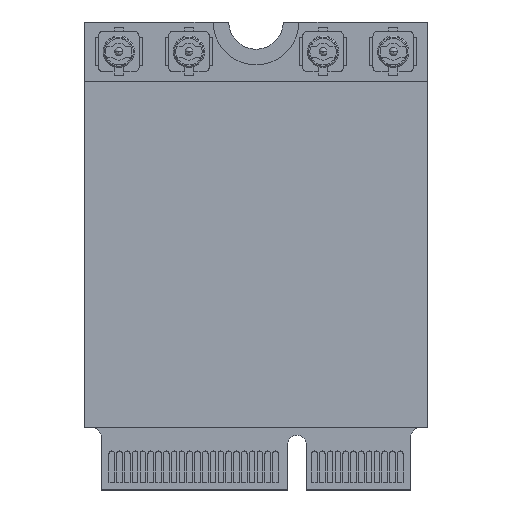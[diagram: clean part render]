
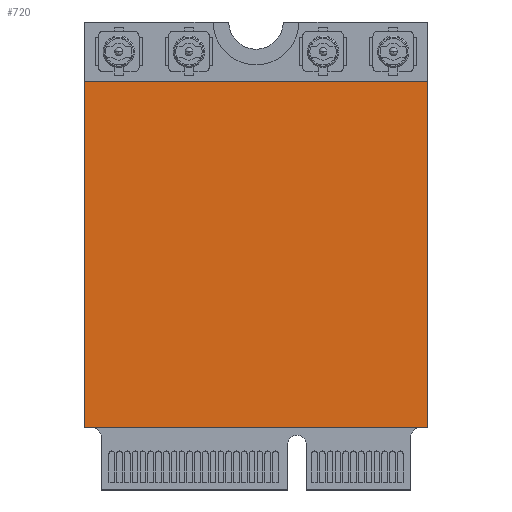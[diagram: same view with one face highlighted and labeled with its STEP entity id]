
A CAD part, top view. The second image highlights one B-rep face of the part: STEP entity #720.
In plain terms, the highlighted planar face has unit normal (0, 0, 1).
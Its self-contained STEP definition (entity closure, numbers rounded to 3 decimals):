
#712=AXIS2_PLACEMENT_3D('Plane Axis2P3D',#709,#710,#711) ;
#584=CARTESIAN_POINT('Vertex',(-11.,-3.8,1.5)) ;
#598=CARTESIAN_POINT('Vertex',(-11.,-26.,1.5)) ;
#601=CARTESIAN_POINT('Line Origine',(-11.,-14.9,1.5)) ;
#629=CARTESIAN_POINT('Vertex',(11.,-26.,1.5)) ;
#632=CARTESIAN_POINT('Line Origine',(0.,-26.,1.5)) ;
#660=CARTESIAN_POINT('Vertex',(11.,-3.8,1.5)) ;
#663=CARTESIAN_POINT('Line Origine',(11.,-14.9,1.5)) ;
#685=CARTESIAN_POINT('Line Origine',(0.,-3.8,1.5)) ;
#709=CARTESIAN_POINT('Axis2P3D Location',(0.,0.,1.5)) ;
#602=DIRECTION('Vector Direction',(0.,-1.,0.)) ;
#633=DIRECTION('Vector Direction',(-1.,0.,0.)) ;
#664=DIRECTION('Vector Direction',(0.,1.,0.)) ;
#686=DIRECTION('Vector Direction',(1.,0.,0.)) ;
#710=DIRECTION('Axis2P3D Direction',(0.,0.,1.)) ;
#711=DIRECTION('Axis2P3D XDirection',(1.,0.,0.)) ;
#603=VECTOR('Line Direction',#602,1.) ;
#634=VECTOR('Line Direction',#633,1.) ;
#665=VECTOR('Line Direction',#664,1.) ;
#687=VECTOR('Line Direction',#686,1.) ;
#715=ORIENTED_EDGE('',*,*,#605,.T.) ;
#716=ORIENTED_EDGE('',*,*,#636,.T.) ;
#717=ORIENTED_EDGE('',*,*,#667,.T.) ;
#718=ORIENTED_EDGE('',*,*,#689,.T.) ;
#720=ADVANCED_FACE('Top-Side-Component-Area',(#719),#713,.T.) ;
#605=EDGE_CURVE('',#585,#599,#604,.T.) ;
#636=EDGE_CURVE('',#599,#630,#635,.F.) ;
#667=EDGE_CURVE('',#630,#661,#666,.T.) ;
#689=EDGE_CURVE('',#661,#585,#688,.F.) ;
#714=EDGE_LOOP('',(#715,#716,#717,#718)) ;
#719=FACE_OUTER_BOUND('',#714,.T.) ;
#604=LINE('Line',#601,#603) ;
#635=LINE('Line',#632,#634) ;
#666=LINE('Line',#663,#665) ;
#688=LINE('Line',#685,#687) ;
#713=PLANE('Plane',#712) ;
#585=VERTEX_POINT('',#584) ;
#599=VERTEX_POINT('',#598) ;
#630=VERTEX_POINT('',#629) ;
#661=VERTEX_POINT('',#660) ;
